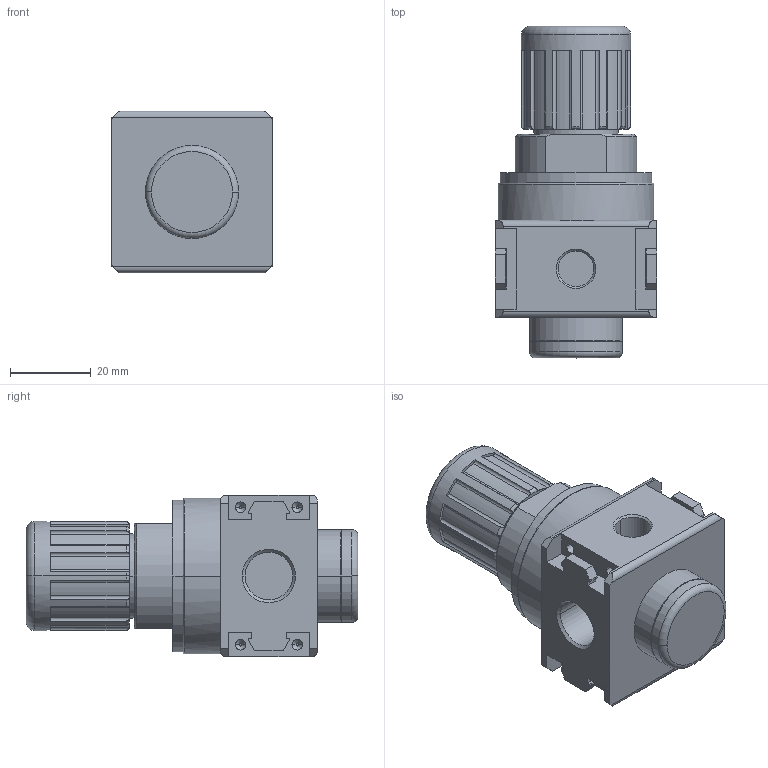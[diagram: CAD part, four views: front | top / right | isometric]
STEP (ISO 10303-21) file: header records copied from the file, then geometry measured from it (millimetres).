
FILE_DESCRIPTION((''),'2;1');
FILE_NAME('0821300713','2018-01-19T',('pug1hc'),(''),'CREO PARAMETRIC BY PTC INC, 2016260','CREO PARAMETRIC BY PTC INC, 2016260','');
FILE_SCHEMA(('CONFIG_CONTROL_DESIGN'));
Length unit declared in the file: millimetre
Products named in the file (1): 0821300713
Bounding box: 40 x 82 x 40 mm (x, y, z)
Volume: 70573 mm3; surface area: 14814.4 mm2
Topology: 1 solids, 1 shells, 218 faces, 593 edges, 397 vertices
Faces by surface type: plane 107, cylinder 83, cone 20, torus 8
Entity records: 7570 total; most frequent: CARTESIAN_POINT 1872, DIRECTION 1191, ORIENTED_EDGE 1186, EDGE_CURVE 593, AXIS2_PLACEMENT_3D 432, VERTEX_POINT 397, VECTOR 327, LINE 327
